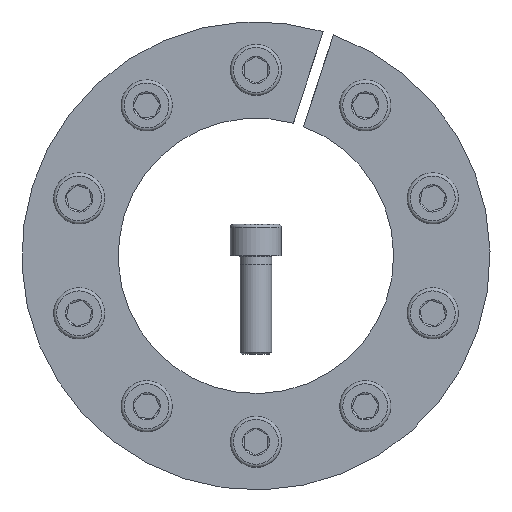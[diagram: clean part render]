
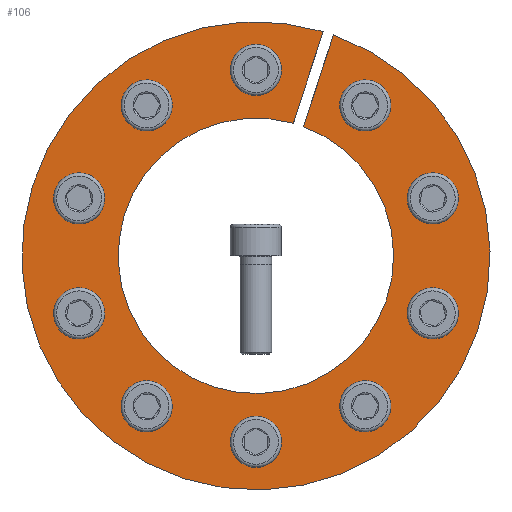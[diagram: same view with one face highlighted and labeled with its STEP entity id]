
A CAD part, front view. The second image highlights one B-rep face of the part: STEP entity #106.
In plain terms, the highlighted planar face has unit normal (0, -1, 0).
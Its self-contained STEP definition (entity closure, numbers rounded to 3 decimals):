
#106 = ADVANCED_FACE( '', ( #247, #248, #249, #250, #251, #252, #253, #254, #255, #256, #257 ), #258, .F. );
#247 = FACE_BOUND( '', #437, .T. );
#248 = FACE_BOUND( '', #438, .T. );
#249 = FACE_BOUND( '', #439, .T. );
#250 = FACE_BOUND( '', #440, .T. );
#251 = FACE_BOUND( '', #441, .T. );
#252 = FACE_BOUND( '', #442, .T. );
#253 = FACE_BOUND( '', #443, .T. );
#254 = FACE_BOUND( '', #444, .T. );
#255 = FACE_BOUND( '', #445, .T. );
#256 = FACE_BOUND( '', #446, .T. );
#257 = FACE_OUTER_BOUND( '', #447, .T. );
#258 = PLANE( '', #448 );
#437 = EDGE_LOOP( '', ( #714 ) );
#438 = EDGE_LOOP( '', ( #715 ) );
#439 = EDGE_LOOP( '', ( #716 ) );
#440 = EDGE_LOOP( '', ( #717 ) );
#441 = EDGE_LOOP( '', ( #718 ) );
#442 = EDGE_LOOP( '', ( #719 ) );
#443 = EDGE_LOOP( '', ( #720 ) );
#444 = EDGE_LOOP( '', ( #721 ) );
#445 = EDGE_LOOP( '', ( #722 ) );
#446 = EDGE_LOOP( '', ( #723 ) );
#447 = EDGE_LOOP( '', ( #724, #725, #726, #727 ) );
#448 = AXIS2_PLACEMENT_3D( '', #728, #729, #730 );
#714 = ORIENTED_EDGE( '', *, *, #974, .T. );
#715 = ORIENTED_EDGE( '', *, *, #975, .T. );
#716 = ORIENTED_EDGE( '', *, *, #976, .T. );
#717 = ORIENTED_EDGE( '', *, *, #977, .T. );
#718 = ORIENTED_EDGE( '', *, *, #978, .T. );
#719 = ORIENTED_EDGE( '', *, *, #979, .T. );
#720 = ORIENTED_EDGE( '', *, *, #980, .T. );
#721 = ORIENTED_EDGE( '', *, *, #957, .T. );
#722 = ORIENTED_EDGE( '', *, *, #965, .T. );
#723 = ORIENTED_EDGE( '', *, *, #925, .T. );
#724 = ORIENTED_EDGE( '', *, *, #981, .T. );
#725 = ORIENTED_EDGE( '', *, *, #969, .T. );
#726 = ORIENTED_EDGE( '', *, *, #928, .T. );
#727 = ORIENTED_EDGE( '', *, *, #960, .F. );
#728 = CARTESIAN_POINT( '', ( 0., 0., 59.5 ) );
#729 = DIRECTION( '', ( 0., 1., 0. ) );
#730 = DIRECTION( '', ( 0., 0., 1. ) );
#925 = EDGE_CURVE( '', #1105, #1105, #1106, .T. );
#928 = EDGE_CURVE( '', #1111, #1109, #1112, .T. );
#957 = EDGE_CURVE( '', #1158, #1158, #1159, .T. );
#960 = EDGE_CURVE( '', #1162, #1109, #1164, .T. );
#965 = EDGE_CURVE( '', #1170, #1170, #1171, .T. );
#969 = EDGE_CURVE( '', #1174, #1111, #1177, .T. );
#974 = EDGE_CURVE( '', #1183, #1183, #1184, .T. );
#975 = EDGE_CURVE( '', #1185, #1185, #1186, .T. );
#976 = EDGE_CURVE( '', #1187, #1187, #1188, .T. );
#977 = EDGE_CURVE( '', #1189, #1189, #1190, .T. );
#978 = EDGE_CURVE( '', #1191, #1191, #1192, .T. );
#979 = EDGE_CURVE( '', #1193, #1193, #1194, .T. );
#980 = EDGE_CURVE( '', #1195, #1195, #1196, .T. );
#981 = EDGE_CURVE( '', #1162, #1174, #1197, .T. );
#1105 = VERTEX_POINT( '', #1416 );
#1106 = CIRCLE( '', #1417, 4. );
#1109 = VERTEX_POINT( '', #1420 );
#1111 = VERTEX_POINT( '', #1423 );
#1112 = LINE( '', #1424, #1425 );
#1158 = VERTEX_POINT( '', #1485 );
#1159 = CIRCLE( '', #1486, 4. );
#1162 = VERTEX_POINT( '', #1489 );
#1164 = CIRCLE( '', #1492, 35. );
#1170 = VERTEX_POINT( '', #1498 );
#1171 = CIRCLE( '', #1499, 4. );
#1174 = VERTEX_POINT( '', #1502 );
#1177 = CIRCLE( '', #1506, 59.5 );
#1183 = VERTEX_POINT( '', #1515 );
#1184 = CIRCLE( '', #1516, 4. );
#1185 = VERTEX_POINT( '', #1517 );
#1186 = CIRCLE( '', #1518, 4. );
#1187 = VERTEX_POINT( '', #1519 );
#1188 = CIRCLE( '', #1520, 4. );
#1189 = VERTEX_POINT( '', #1521 );
#1190 = CIRCLE( '', #1522, 4. );
#1191 = VERTEX_POINT( '', #1523 );
#1192 = CIRCLE( '', #1524, 4. );
#1193 = VERTEX_POINT( '', #1525 );
#1194 = CIRCLE( '', #1526, 4. );
#1195 = VERTEX_POINT( '', #1527 );
#1196 = CIRCLE( '', #1528, 4. );
#1197 = LINE( '', #1529, #1530 );
#1416 = CARTESIAN_POINT( '', ( -43.701, 0., 18.405 ) );
#1417 = AXIS2_PLACEMENT_3D( '', #1645, #1646, #1647 );
#1420 = CARTESIAN_POINT( '', ( 12.115, 0., 32.836 ) );
#1423 = CARTESIAN_POINT( '', ( 19.689, 0., 56.148 ) );
#1424 = CARTESIAN_POINT( '', ( 19.694, 0., 56.163 ) );
#1425 = VECTOR( '', #1649, 1000. );
#1485 = CARTESIAN_POINT( '', ( 24.537, 0., -40.577 ) );
#1486 = AXIS2_PLACEMENT_3D( '', #1694, #1695, #1696 );
#1489 = CARTESIAN_POINT( '', ( 9.5, 0., 33.686 ) );
#1492 = AXIS2_PLACEMENT_3D( '', #1698, #1699, #1700 );
#1498 = CARTESIAN_POINT( '', ( -31.009, 0., -35.875 ) );
#1499 = AXIS2_PLACEMENT_3D( '', #1707, #1708, #1709 );
#1502 = CARTESIAN_POINT( '', ( 17.074, 0., 56.998 ) );
#1506 = AXIS2_PLACEMENT_3D( '', #1714, #1715, #1716 );
#1515 = CARTESIAN_POINT( '', ( -24.537, 0., 40.577 ) );
#1516 = AXIS2_PLACEMENT_3D( '', #1720, #1721, #1722 );
#1517 = CARTESIAN_POINT( '', ( -46.173, 0., -10.797 ) );
#1518 = AXIS2_PLACEMENT_3D( '', #1723, #1724, #1725 );
#1519 = CARTESIAN_POINT( '', ( -4., 0., -47.25 ) );
#1520 = AXIS2_PLACEMENT_3D( '', #1726, #1727, #1728 );
#1521 = CARTESIAN_POINT( '', ( 43.701, 0., -18.405 ) );
#1522 = AXIS2_PLACEMENT_3D( '', #1729, #1730, #1731 );
#1523 = CARTESIAN_POINT( '', ( 31.009, 0., 35.875 ) );
#1524 = AXIS2_PLACEMENT_3D( '', #1732, #1733, #1734 );
#1525 = CARTESIAN_POINT( '', ( 4., 0., 47.25 ) );
#1526 = AXIS2_PLACEMENT_3D( '', #1735, #1736, #1737 );
#1527 = CARTESIAN_POINT( '', ( 46.173, 0., 10.797 ) );
#1528 = AXIS2_PLACEMENT_3D( '', #1738, #1739, #1740 );
#1529 = CARTESIAN_POINT( '', ( 9.5, 0., 33.686 ) );
#1530 = VECTOR( '', #1741, 1000. );
#1645 = CARTESIAN_POINT( '', ( -44.937, 0., 14.601 ) );
#1646 = DIRECTION( '', ( 0., 1., 0. ) );
#1647 = DIRECTION( '', ( 0.309, 0., 0.951 ) );
#1649 = DIRECTION( '', ( -0.309, 0., -0.951 ) );
#1694 = CARTESIAN_POINT( '', ( 27.773, 0., -38.226 ) );
#1695 = DIRECTION( '', ( 0., 1., 0. ) );
#1696 = DIRECTION( '', ( -0.809, 0., -0.588 ) );
#1698 = CARTESIAN_POINT( '', ( 0., 0., 0. ) );
#1699 = DIRECTION( '', ( 0., -1., 0. ) );
#1700 = DIRECTION( '', ( 0., 0., -1. ) );
#1707 = CARTESIAN_POINT( '', ( -27.773, 0., -38.226 ) );
#1708 = DIRECTION( '', ( 0., 1., 0. ) );
#1709 = DIRECTION( '', ( -0.809, 0., 0.588 ) );
#1714 = CARTESIAN_POINT( '', ( 0., 0., 0. ) );
#1715 = DIRECTION( '', ( 0., -1., 0. ) );
#1716 = DIRECTION( '', ( 0., 0., -1. ) );
#1720 = CARTESIAN_POINT( '', ( -27.773, 0., 38.226 ) );
#1721 = DIRECTION( '', ( 0., 1., 0. ) );
#1722 = DIRECTION( '', ( 0.809, 0., 0.588 ) );
#1723 = CARTESIAN_POINT( '', ( -44.937, 0., -14.601 ) );
#1724 = DIRECTION( '', ( 0., 1., 0. ) );
#1725 = DIRECTION( '', ( -0.309, 0., 0.951 ) );
#1726 = CARTESIAN_POINT( '', ( 0., 0., -47.25 ) );
#1727 = DIRECTION( '', ( 0., 1., 0. ) );
#1728 = DIRECTION( '', ( -1., 0., 0. ) );
#1729 = CARTESIAN_POINT( '', ( 44.937, 0., -14.601 ) );
#1730 = DIRECTION( '', ( 0., 1., 0. ) );
#1731 = DIRECTION( '', ( -0.309, 0., -0.951 ) );
#1732 = CARTESIAN_POINT( '', ( 27.773, 0., 38.226 ) );
#1733 = DIRECTION( '', ( 0., 1., 0. ) );
#1734 = DIRECTION( '', ( 0.809, 0., -0.588 ) );
#1735 = CARTESIAN_POINT( '', ( 0., 0., 47.25 ) );
#1736 = DIRECTION( '', ( 0., 1., 0. ) );
#1737 = DIRECTION( '', ( 1., 0., 0. ) );
#1738 = CARTESIAN_POINT( '', ( 44.937, 0., 14.601 ) );
#1739 = DIRECTION( '', ( 0., 1., 0. ) );
#1740 = DIRECTION( '', ( 0.309, 0., -0.951 ) );
#1741 = DIRECTION( '', ( 0.309, 0., 0.951 ) );
